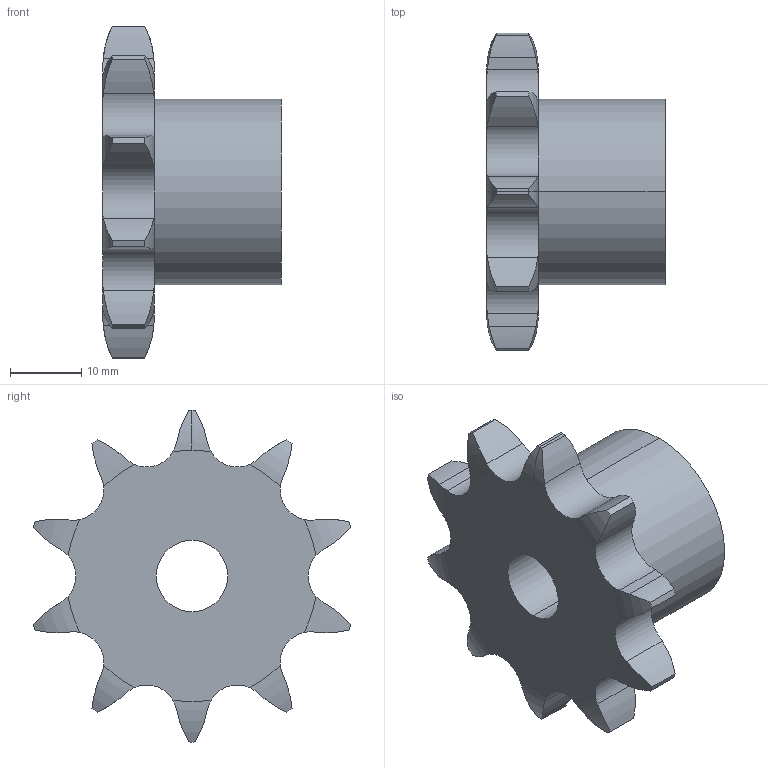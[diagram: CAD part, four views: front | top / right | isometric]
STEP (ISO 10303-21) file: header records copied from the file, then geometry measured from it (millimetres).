
FILE_DESCRIPTION (( 'STEP AP214' ), '1' );
FILE_NAME ('N102106.STEP', '2018-10-31T12:38:59', ( '' ), ( '' ), 'SwSTEP 2.0', 'SolidWorks 2015', '' );
FILE_SCHEMA (( 'AUTOMOTIVE_DESIGN' ));
Length unit declared in the file: millimetre
Products named in the file (1): N102106
Bounding box: 25 x 44.55 x 46.56 mm (x, y, z)
Volume: 15376.8 mm3; surface area: 5600.9 mm2
Topology: 1 solids, 1 shells, 76 faces, 217 edges, 144 vertices
Faces by surface type: cylinder 51, torus 22, plane 3
Entity records: 2737 total; most frequent: CARTESIAN_POINT 810, ORIENTED_EDGE 434, DIRECTION 361, EDGE_CURVE 217, AXIS2_PLACEMENT_3D 155, VERTEX_POINT 144, B_SPLINE_CURVE_WITH_KNOTS 88, EDGE_LOOP 79
